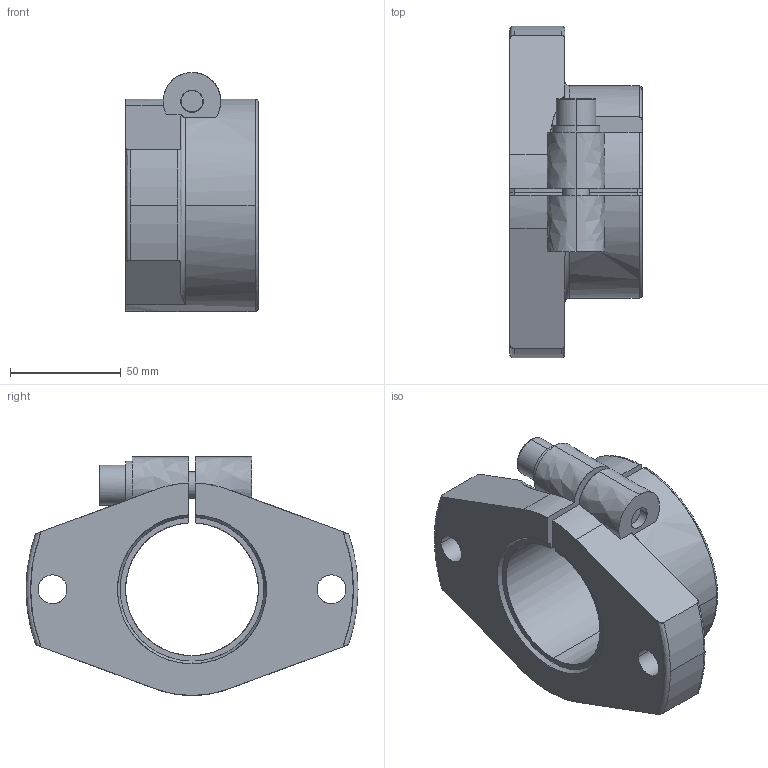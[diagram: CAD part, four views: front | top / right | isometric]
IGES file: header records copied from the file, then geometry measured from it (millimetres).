
Global section: file name: No Iges File Name specified; native system: AutoDesk Inventor R10; preprocessor: AutoDesk Inventor Iges Exporter R10; author: No Author specified; organization: No Organization specified; date: 20101214.154040; units: millimetre
Bounding box: 60 x 150 x 108 mm (x, y, z)
Surface area: 56090.1 mm2 (no closed solid volume)
Topology: 0 solids, 0 shells, 75 faces, 692 edges, 690 vertices
Faces by surface type: bspline 75
